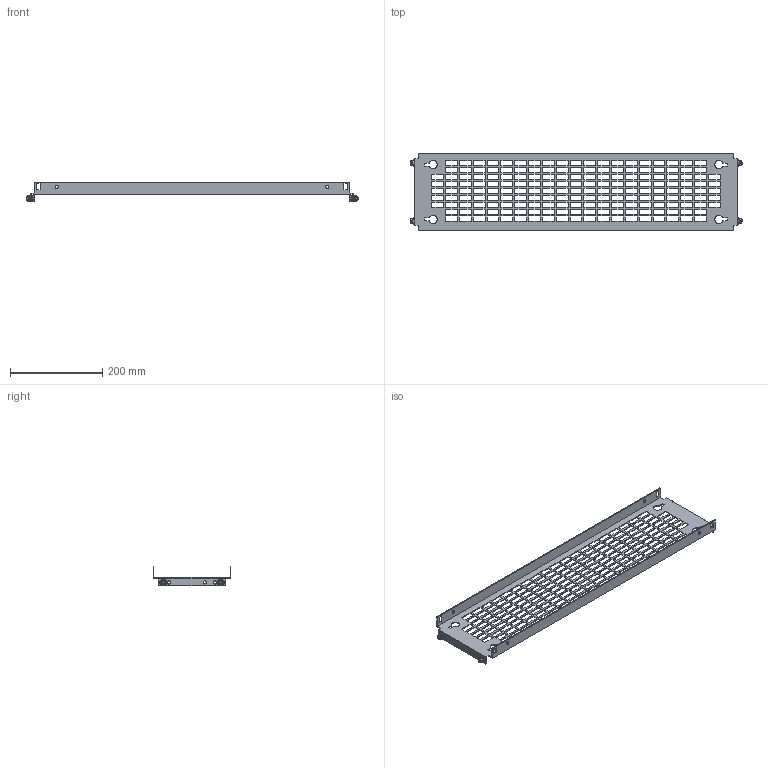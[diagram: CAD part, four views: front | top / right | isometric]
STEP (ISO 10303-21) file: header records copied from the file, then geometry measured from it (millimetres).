
FILE_DESCRIPTION(('Open CASCADE Model'),'2;1');
FILE_NAME('Open CASCADE Shape Model','2025-02-19T16:48:19',('Author'),( 'Open CASCADE'),'Open CASCADE STEP processor 7.8','Open CASCADE 7.8' ,'Unknown');
FILE_SCHEMA(('AUTOMOTIVE_DESIGN { 1 0 10303 214 1 1 1 1 }'));
Length unit declared in the file: millimetre
Products named in the file (4): Compound1; Solid1; Solid2; Solid3
Assembly tree (9 placements, depth 2):
  Compound1
    Solid1
    Solid2  x4
    Solid3  x4
Bounding box: 720 x 169 x 43 mm (x, y, z)
Volume: 209368.3 mm3; surface area: 240687.8 mm2
Topology: 9 solids, 9 shells, 1016 faces, 2877 edges, 1883 vertices
Faces by surface type: plane 858, cone 68, bspline 48, cylinder 30, torus 12
Full cylindrical faces by diameter (mm): 5 x4, 6 x8, 7 x14
Entity records: 29406 total; most frequent: CARTESIAN_POINT 5687, ORIENTED_EDGE 5076, DIRECTION 4242, EDGE_CURVE 2538, LINE 2380, VECTOR 2380, VERTEX_POINT 1685, FACE_BOUND 1269
